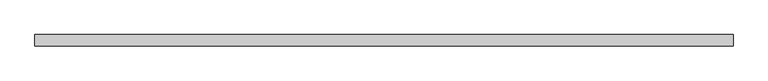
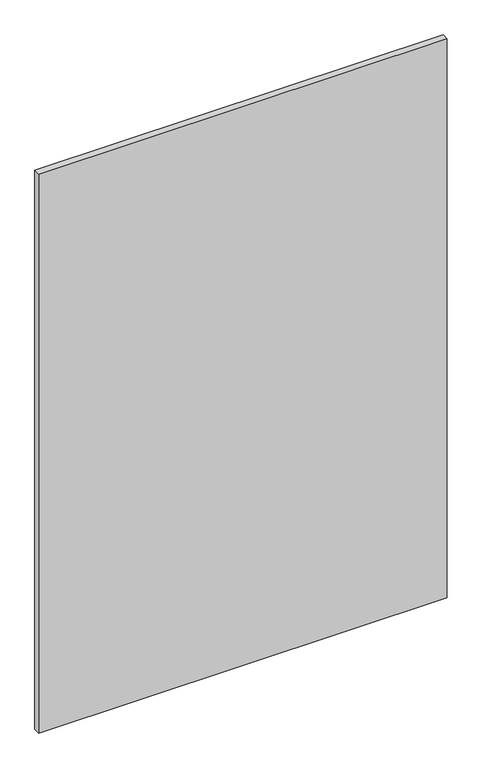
"""IFC4 building model written with IfcOpenShell, lengths in millimetres: plate geometry, 系统嵌板 : 玻璃."""

from ifc_helpers import new_model, si_unit, origin, origin_with_axes, place, context, project, spatial, polyline, outline, extrude, source, transform, mapped, element, save


def plate_018ef02b(model_context):
    return source(origin(), model_context, "Body", "SweptSolid", [
        extrude(outline(polyline([(785.0, -12.5), (-785.0, -12.5), (-785.0, 12.5), (785.0, 12.5), (785.0, -12.5)])), origin_with_axes(), (0.0, 0.0, 1.0), 2270.0),
    ])


if __name__ == "__main__":
    model = new_model("IFC4")
    model_context = context("Model", 3, world=origin())
    ifc_project = project(units=[si_unit("LENGTHUNIT", "METRE", prefix="MILLI")], contexts=[model_context])
    site = spatial("IfcSite", under=ifc_project)
    building = spatial("IfcBuilding", under=site)
    placement = place(None, origin())
    plate_shape = plate_018ef02b(model_context)
    element("IfcPlate", 1, ObjectType="系统嵌板 : 玻璃", at=placement, inside=building, context=model_context, shape_type="MappedRepresentation", body=[
        mapped(plate_shape, transform((0.0, 0.0, 0.0), x_axis=(1.0, 0.0, 0.0), y_axis=(0.0, 1.0, 0.0), z_axis=(0.0, 0.0, 1.0))),
    ])
    save(model, "model.ifc")
